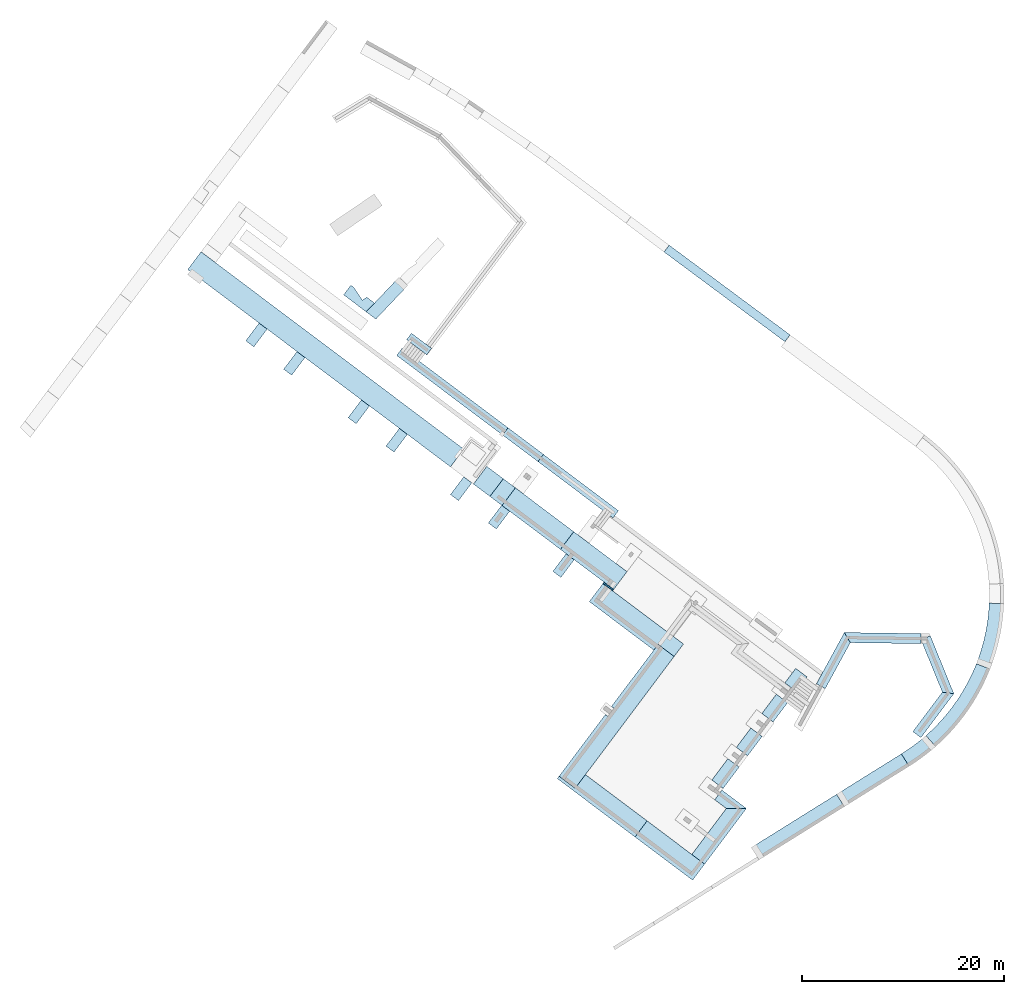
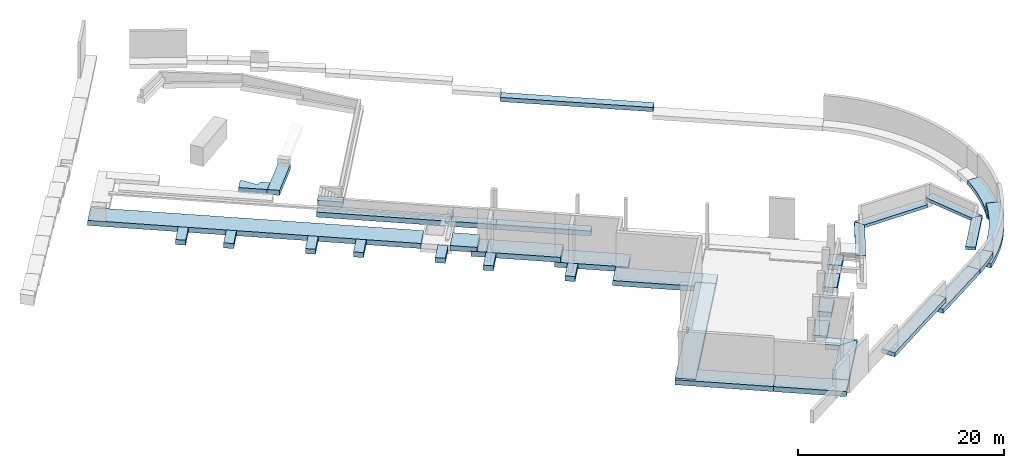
# One storey, part 1 of 9: 37 footings.
"""IFC2X3 building model written with IfcOpenShell, lengths in metres."""

import ifcopenshell
import ifcopenshell.guid

model = None  # the IFC model being written
_history = None  # IfcOwnerHistory: only IFC2X3 demands one
_inside = {}  # id of a spatial element -> (the spatial element, [elements in it])
_under = {}  # id of a project, library or spatial element -> (it, [spatial elements below it])
_declared = {}  # id of a project -> (the project, [libraries it declares])
_typed = {}  # id of a type object -> (the type object, [elements of that type])
_made_of = {}  # id of a material, layer set ... -> (it, [elements and type objects made of it])


def new_model(schema):
    """Start an empty IFC model of exactly this schema.

    Asked for "IFC4X3", IfcOpenShell would pick the latest addendum, in which some entities
    have other attributes; the version numbers below select the first issue.
    IFC2X3 requires an IfcOwnerHistory on every rooted entity: one is made here for all.
    """
    global model, _history
    if schema == "IFC4X3":
        model = ifcopenshell.file(schema_version=(4, 3, 0, 0))
    else:
        model = ifcopenshell.file(schema=schema)
    _inside.clear()
    _under.clear()
    _declared.clear()
    _typed.clear()
    _made_of.clear()
    _history = None
    if model.schema == "IFC2X3":
        org = make("IfcOrganization", Name="unknown")
        user = make(
            "IfcPersonAndOrganization",
            ThePerson=make("IfcPerson", FamilyName="unknown"),
            TheOrganization=org,
        )
        app = make(
            "IfcApplication",
            ApplicationDeveloper=org,
            Version="unknown",
            ApplicationFullName="unknown",
            ApplicationIdentifier="unknown",
        )
        _history = make(
            "IfcOwnerHistory",
            OwningUser=user,
            OwningApplication=app,
            ChangeAction="ADDED",
            CreationDate=0,
        )
    return model


def make(cls, **values):
    """One entity of the class cls with the attributes given. An attribute that is None is left unset."""
    return model.create_entity(
        cls, **{name: value for name, value in values.items() if value is not None}
    )


def entity(cls, *values):
    """Any entity or typed value of the class cls, its attributes in the order of the schema. None: left unset."""
    e = model.create_entity(cls)
    for i, value in enumerate(values):
        if value is not None:
            e[i] = value
    return e


def rooted(cls, **values):
    """An entity with a GlobalId (a new one), such as an element, a storey or a relation."""
    return make(cls, GlobalId=ifcopenshell.guid.new(), OwnerHistory=_history, **values)


def si_unit(unit_type, name, prefix=None):
    """IfcSIUnit, for example si_unit("LENGTHUNIT", "METRE", prefix="MILLI")."""
    return make("IfcSIUnit", UnitType=unit_type, Prefix=prefix, Name=name)


def converted_unit(unit_type, name, factor, base, dimensions=None, offset=None):
    """IfcConversionBasedUnit, such as the inch: factor (a typed value) times the base unit."""
    return make(
        "IfcConversionBasedUnit"
        if offset is None
        else "IfcConversionBasedUnitWithOffset",
        ConversionOffset=offset,
        Dimensions=None
        if dimensions is None
        else entity("IfcDimensionalExponents", *dimensions),
        UnitType=unit_type,
        Name=name,
        ConversionFactor=make(
            "IfcMeasureWithUnit", ValueComponent=factor, UnitComponent=base
        ),
    )


def derived_unit(unit_type, elements):
    """IfcDerivedUnit: a product of units, each with its exponent."""
    return make(
        "IfcDerivedUnit",
        Elements=[
            make("IfcDerivedUnitElement", Unit=unit, Exponent=power)
            for unit, power in elements
        ],
        UnitType=unit_type,
    )


def assignment(units):
    """IfcUnitAssignment: the units of a project."""
    return None if units is None else make("IfcUnitAssignment", Units=units)


def point(xyz):
    """IfcCartesianPoint."""
    return None if xyz is None else make("IfcCartesianPoint", Coordinates=xyz)


def direction(xyz):
    """IfcDirection."""
    return None if xyz is None else make("IfcDirection", DirectionRatios=xyz)


def frame(location, z_axis=None, x_axis=None):
    """IfcAxis2Placement3D, a coordinate frame: its origin and axes. An axis left out is left unset."""
    return make(
        "IfcAxis2Placement3D",
        Location=point(location),
        Axis=direction(z_axis),
        RefDirection=direction(x_axis),
    )


def frame_2d(location, x_axis=None):
    """IfcAxis2Placement2D, a coordinate frame in the plane: its origin and x axis."""
    return make(
        "IfcAxis2Placement2D", Location=point(location), RefDirection=direction(x_axis)
    )


def origin():
    """The frame at (0, 0, 0) with its axes left unset."""
    return frame((0.0, 0.0, 0.0))


def origin_2d_with_axis():
    """The frame at (0, 0) in the plane with the x axis (1, 0) written out."""
    return frame_2d((0.0, 0.0), x_axis=(1.0, 0.0))


def place(relative_to, where):
    """IfcLocalPlacement: puts the frame where relative to a parent placement (None: the world)."""
    return make(
        "IfcLocalPlacement", PlacementRelTo=relative_to, RelativePlacement=where
    )


def context(
    kind, dimensions, precision=None, world=None, true_north=None, identifier=None
):
    """IfcGeometricRepresentationContext, for example the 3D "Model" context."""
    return make(
        "IfcGeometricRepresentationContext",
        ContextIdentifier=identifier,
        ContextType=kind,
        CoordinateSpaceDimension=dimensions,
        Precision=precision,
        WorldCoordinateSystem=world,
        TrueNorth=true_north,
    )


def subcontext(parent, identifier, kind, view, scale=None):
    """IfcGeometricRepresentationSubContext, for example "Body" below "Model"."""
    return make(
        "IfcGeometricRepresentationSubContext",
        ContextIdentifier=identifier,
        ContextType=kind,
        ParentContext=parent,
        TargetScale=scale,
        TargetView=view,
    )


def project(units=None, contexts=None):
    """IfcProject with its units and contexts."""
    return rooted(
        "IfcProject",
        Name="project",
        RepresentationContexts=contexts,
        UnitsInContext=assignment(units),
    )


def spatial(cls, under=None, at=None, **own):
    """A site, building, storey or space (cls), placed at a placement, below another one or the project."""
    s = rooted(cls, ObjectPlacement=at, **own)
    if under is not None:
        _under.setdefault(under.id(), (under, []))[1].append(s)
    return s


def polyline(points):
    """IfcPolyline through the points."""
    return make("IfcPolyline", Points=[point(p) for p in points])


def circle_curve(where, radius):
    """IfcCircle in the frame where."""
    return make("IfcCircle", Position=where, Radius=radius)


def parameter(value):
    """IfcParameterValue: where a trimmed curve begins or ends, as a parameter of its basis curve."""
    return model.create_entity("IfcParameterValue", value)


def trimmed(basis, trim1, trim2, sense, master):
    """IfcTrimmedCurve: the piece of a basis curve between two trims."""
    return make(
        "IfcTrimmedCurve",
        BasisCurve=basis,
        Trim1=trim1,
        Trim2=trim2,
        SenseAgreement=sense,
        MasterRepresentation=master,
    )


def segment(curve, same_sense, transition):
    """IfcCompositeCurveSegment."""
    return make(
        "IfcCompositeCurveSegment",
        Transition=transition,
        SameSense=same_sense,
        ParentCurve=curve,
    )


def composite_curve(segments, self_intersect=None):
    """IfcCompositeCurve: segments joined end to end."""
    return make("IfcCompositeCurve", Segments=segments, SelfIntersect=self_intersect)


def profile(cls, at=None, kind="AREA", **sizes):
    """A parametric profile (cls). Its sizes go by their IFC names, for example OverallWidth=200.0."""
    return make(cls, ProfileType=kind, Position=at, **sizes)


def rectangle(**sizes):
    """IfcRectangleProfileDef."""
    return profile("IfcRectangleProfileDef", **sizes)


def outline(outer, holes=None, kind="AREA"):
    """IfcArbitraryClosedProfileDef: a profile drawn as a closed curve; with holes, ...WithVoids."""
    if holes is None:
        return make("IfcArbitraryClosedProfileDef", ProfileType=kind, OuterCurve=outer)
    return make(
        "IfcArbitraryProfileDefWithVoids",
        ProfileType=kind,
        OuterCurve=outer,
        InnerCurves=holes,
    )


def extrude(swept, where, along, depth):
    """IfcExtrudedAreaSolid: the profile swept, set in the frame where, extruded along a direction by depth."""
    return make(
        "IfcExtrudedAreaSolid",
        SweptArea=swept,
        Position=where,
        ExtrudedDirection=direction(along),
        Depth=depth,
    )


def shape(context_of_items, identifier, shape_type, items):
    """IfcShapeRepresentation: the items that make up one representation, for example the "Body"."""
    return make(
        "IfcShapeRepresentation",
        ContextOfItems=context_of_items,
        RepresentationIdentifier=identifier,
        RepresentationType=shape_type,
        Items=items,
    )


def material(Name=None, Category=None):
    """IfcMaterial."""
    return make("IfcMaterial", Name=Name, Category=Category)


def made_of(thing, what):
    """Note that an element or type object is made of a material, layer set ...; save() writes the relation."""
    if what is not None:
        _made_of.setdefault(what.id(), (what, []))[1].append(thing)
    return thing


def element(
    cls,
    number,
    at=None,
    inside=None,
    cuts=None,
    type_object=None,
    material=None,
    context=None,
    identifier="Body",
    shape_type=None,
    held_by="IfcProductDefinitionShape",
    body=None,
    shapes=None,
    **own,
):
    """One element of the class cls, such as IfcWall. Its Tag is "e" and its number.

    at: its placement. inside: the storey or other place that contains it. cuts: it is an
    opening in that element (IfcRelVoidsElement). A single representation is given by context,
    identifier, shape_type and body (its items); several are given by shapes. held_by: the class
    of the entity that holds the representations. save() writes the other relations.
    """
    e = rooted(cls, Tag="e%d" % number, ObjectPlacement=at, **own)
    if body is not None:
        shapes = [shape(context, identifier, shape_type, body)]
    if shapes is not None:
        e.Representation = make(held_by, Representations=shapes)
    if inside is not None:
        _inside.setdefault(inside.id(), (inside, []))[1].append(e)
    if cuts is not None:
        rooted(
            "IfcRelVoidsElement", RelatingBuildingElement=cuts, RelatedOpeningElement=e
        )
    if type_object is not None:
        _typed.setdefault(type_object.id(), (type_object, []))[1].append(e)
    return made_of(e, material)


def aggregate(whole, parts):
    """IfcRelAggregates: a whole, such as a stair, and the parts it consists of."""
    return rooted("IfcRelAggregates", RelatingObject=whole, RelatedObjects=parts)


def save(model, path):
    """Write the relations noted so far, then the file.

    IfcRelAggregates (storeys below a building ...), IfcRelContainedInSpatialStructure (elements
    in a storey), IfcRelDefinesByType, IfcRelAssociatesMaterial and IfcRelDeclares: one each for
    every whole, place, type object, material and project.
    """
    for whole, parts in _under.values():
        aggregate(whole, parts)
    for where, things in _inside.values():
        rooted(
            "IfcRelContainedInSpatialStructure",
            RelatedElements=things,
            RelatingStructure=where,
        )
    for kind, things in _typed.values():
        rooted("IfcRelDefinesByType", RelatedObjects=things, RelatingType=kind)
    for what, things in _made_of.values():
        rooted("IfcRelAssociatesMaterial", RelatedObjects=things, RelatingMaterial=what)
    for by, libraries in _declared.values():
        rooted("IfcRelDeclares", RelatingContext=by, RelatedDefinitions=libraries)
    model.write(path)


model = new_model("IFC2X3")

# Units and contexts
model_context = context("Model", 3, precision=1e-05, world=origin(), true_north=direction((6.123031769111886e-17, 1.0)))
body_context = subcontext(model_context, "Body", "Model", "MODEL_VIEW")
ifc_project = project(units=[si_unit("LENGTHUNIT", "METRE"), si_unit("AREAUNIT", "SQUARE_METRE"), si_unit("VOLUMEUNIT", "CUBIC_METRE"), converted_unit("PLANEANGLEUNIT", "DEGREE", entity("IfcRatioMeasure", 0.017453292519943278), si_unit("PLANEANGLEUNIT", "RADIAN"), dimensions=[0, 0, 0, 0, 0, 0, 0]), si_unit("MASSUNIT", "GRAM", prefix="KILO"), derived_unit("MASSDENSITYUNIT", [(si_unit("MASSUNIT", "GRAM", prefix="KILO"), 1), (si_unit("LENGTHUNIT", "METRE"), -3)]), derived_unit("IONCONCENTRATIONUNIT", [(si_unit("MASSUNIT", "GRAM", prefix="KILO"), 1), (si_unit("LENGTHUNIT", "METRE"), -3)]), derived_unit("MOMENTOFINERTIAUNIT", [(si_unit("LENGTHUNIT", "METRE"), 4)]), si_unit("TIMEUNIT", "SECOND"), si_unit("FREQUENCYUNIT", "HERTZ"), si_unit("THERMODYNAMICTEMPERATUREUNIT", "DEGREE_CELSIUS"), derived_unit("THERMALTRANSMITTANCEUNIT", [(si_unit("MASSUNIT", "GRAM", prefix="KILO"), 1), (si_unit("THERMODYNAMICTEMPERATUREUNIT", "KELVIN"), -1), (si_unit("TIMEUNIT", "SECOND"), -3)]), derived_unit("THERMALCONDUCTANCEUNIT", [(si_unit("MASSUNIT", "GRAM", prefix="KILO"), 1), (si_unit("THERMODYNAMICTEMPERATUREUNIT", "KELVIN"), -1), (si_unit("TIMEUNIT", "SECOND"), -3), (si_unit("LENGTHUNIT", "METRE"), 1)]), derived_unit("VOLUMETRICFLOWRATEUNIT", [(si_unit("LENGTHUNIT", "METRE"), 3), (si_unit("TIMEUNIT", "SECOND"), -1)]), derived_unit("MASSFLOWRATEUNIT", [(si_unit("MASSUNIT", "GRAM", prefix="KILO"), 1), (si_unit("TIMEUNIT", "SECOND"), -1)]), derived_unit("ROTATIONALFREQUENCYUNIT", [(si_unit("TIMEUNIT", "SECOND"), -1)]), si_unit("ELECTRICCURRENTUNIT", "AMPERE"), si_unit("ELECTRICVOLTAGEUNIT", "VOLT"), si_unit("POWERUNIT", "WATT"), si_unit("FORCEUNIT", "NEWTON", prefix="KILO"), si_unit("ILLUMINANCEUNIT", "LUX"), si_unit("LUMINOUSFLUXUNIT", "LUMEN"), si_unit("LUMINOUSINTENSITYUNIT", "CANDELA"), derived_unit("USERDEFINED", [(si_unit("MASSUNIT", "GRAM", prefix="KILO"), -1), (si_unit("LENGTHUNIT", "METRE"), -2), (si_unit("TIMEUNIT", "SECOND"), 3), (si_unit("LUMINOUSFLUXUNIT", "LUMEN"), 1)]), derived_unit("USERDEFINED", [(si_unit("MASSUNIT", "GRAM", prefix="KILO"), 1), (si_unit("TIMEUNIT", "SECOND"), -3), (si_unit("LENGTHUNIT", "METRE"), 3), (si_unit("ELECTRICCURRENTUNIT", "AMPERE"), -2)]), derived_unit("SOUNDPOWERUNIT", [(si_unit("MASSUNIT", "GRAM", prefix="KILO"), 1), (si_unit("TIMEUNIT", "SECOND"), -3), (si_unit("LENGTHUNIT", "METRE"), 2)]), derived_unit("SOUNDPRESSUREUNIT", [(si_unit("MASSUNIT", "GRAM", prefix="KILO"), 1), (si_unit("LENGTHUNIT", "METRE"), -1), (si_unit("TIMEUNIT", "SECOND"), -2)]), derived_unit("LINEARVELOCITYUNIT", [(si_unit("LENGTHUNIT", "METRE"), 1), (si_unit("TIMEUNIT", "SECOND"), -1)]), si_unit("PRESSUREUNIT", "PASCAL"), derived_unit("USERDEFINED", [(si_unit("MASSUNIT", "GRAM", prefix="KILO"), 1), (si_unit("LENGTHUNIT", "METRE"), -2), (si_unit("TIMEUNIT", "SECOND"), -2)]), derived_unit("LINEARFORCEUNIT", [(si_unit("MASSUNIT", "GRAM", prefix="KILO"), 1), (si_unit("TIMEUNIT", "SECOND"), -2)]), derived_unit("PLANARFORCEUNIT", [(si_unit("MASSUNIT", "GRAM", prefix="KILO"), 1), (si_unit("LENGTHUNIT", "METRE"), -1), (si_unit("TIMEUNIT", "SECOND"), -2)]), derived_unit("SPECIFICHEATCAPACITYUNIT", [(si_unit("THERMODYNAMICTEMPERATUREUNIT", "KELVIN"), -1), (si_unit("LENGTHUNIT", "METRE"), 2), (si_unit("TIMEUNIT", "SECOND"), -2)]), derived_unit("HEATINGVALUEUNIT", [(si_unit("LENGTHUNIT", "METRE"), 2), (si_unit("TIMEUNIT", "SECOND"), -2)]), derived_unit("VAPORPERMEABILITYUNIT", [(si_unit("LENGTHUNIT", "METRE"), -1), (si_unit("TIMEUNIT", "SECOND"), 1)]), derived_unit("DYNAMICVISCOSITYUNIT", [(si_unit("MASSUNIT", "GRAM", prefix="KILO"), 1), (si_unit("TIMEUNIT", "SECOND"), -1), (si_unit("LENGTHUNIT", "METRE"), -1)]), derived_unit("THERMALEXPANSIONCOEFFICIENTUNIT", [(si_unit("THERMODYNAMICTEMPERATUREUNIT", "KELVIN"), -1)]), derived_unit("MODULUSOFELASTICITYUNIT", [(si_unit("MASSUNIT", "GRAM", prefix="KILO"), 1), (si_unit("LENGTHUNIT", "METRE"), -1), (si_unit("TIMEUNIT", "SECOND"), -2)]), derived_unit("ISOTHERMALMOISTURECAPACITYUNIT", [(si_unit("LENGTHUNIT", "METRE"), 3), (si_unit("MASSUNIT", "GRAM", prefix="KILO"), -1)]), derived_unit("MOISTUREDIFFUSIVITYUNIT", [(si_unit("TIMEUNIT", "SECOND"), -1), (si_unit("LENGTHUNIT", "METRE"), 2)])], contexts=[model_context])

# Site, building, storey
site_placement = place(None, origin())
site = spatial("IfcSite", under=ifc_project, at=site_placement, Name="Default", CompositionType="ELEMENT")
building_placement = place(site_placement, frame((0.0, 0.0, 235.0), z_axis=(0.0, 0.0, 1.0), x_axis=(-0.7996477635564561, 0.6004693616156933, 0.0)))
building = spatial("IfcBuilding", under=site, at=building_placement, CompositionType="ELEMENT")
storey_placement = place(building_placement, frame((0.0, 0.0, -5.4499999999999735)))
storey = spatial("IfcBuildingStorey", under=building, at=storey_placement, Name="PS1- Gimnàs", CompositionType="ELEMENT", Elevation=-5.4499999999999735)

# Footings
ifc_material = material(Name="_Formigó- T1- STR")
footing_1_placement = place(storey_placement, frame((66.09514768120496, -36.11519175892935, -0.050000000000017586)))
element("IfcFooting", 1, at=footing_1_placement, inside=storey, material=ifc_material, Name="Cimentación de muro:STR- S- Formigó- Sabata mur 100 T-54", ObjectType="Cimentación de muro:STR- S- Formigó- Sabata mur 100 T-54", PredefinedType="STRIP_FOOTING", context=body_context, shape_type="SweptSolid", body=[
    extrude(rectangle(XDim=2.1999999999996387, YDim=0.999999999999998, at=frame_2d((-2.220446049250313e-15, 4.3576253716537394e-15), x_axis=(1.0, 0.0))), frame((0.5000000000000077, 1.0999999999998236, 0.0), z_axis=(0.0, 0.0, 1.0), x_axis=(0.0, 1.0, 0.0)), (0.0, 0.0, 1.0), 0.6000000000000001),
])
footing_2_placement = place(storey_placement, frame((61.39514768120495, -36.115191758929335, -0.050000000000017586)))
element("IfcFooting", 2, at=footing_2_placement, inside=storey, material=ifc_material, Name="Cimentación de muro:STR- S- Formigó- Sabata mur 100 T-54", ObjectType="Cimentación de muro:STR- S- Formigó- Sabata mur 100 T-54", PredefinedType="STRIP_FOOTING", context=body_context, shape_type="SweptSolid", body=[
    extrude(rectangle(XDim=2.1999999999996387, YDim=0.999999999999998, at=frame_2d((-2.220446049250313e-15, 4.3576253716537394e-15), x_axis=(1.0, 0.0))), frame((0.5000000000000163, 1.0999999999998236, 0.0), z_axis=(0.0, 0.0, 1.0), x_axis=(0.0, 1.0, 0.0)), (0.0, 0.0, 1.0), 0.6000000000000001),
])
footing_3_placement = place(storey_placement, frame((53.39514768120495, -36.115191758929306, -0.050000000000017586)))
element("IfcFooting", 3, at=footing_3_placement, inside=storey, material=ifc_material, Name="Cimentación de muro:STR- S- Formigó- Sabata mur 100 T-54", ObjectType="Cimentación de muro:STR- S- Formigó- Sabata mur 100 T-54", PredefinedType="STRIP_FOOTING", context=body_context, shape_type="SweptSolid", body=[
    extrude(rectangle(XDim=2.1999999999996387, YDim=0.999999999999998, at=frame_2d((2.220446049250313e-15, 4.3576253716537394e-15), x_axis=(1.0, 0.0))), frame((0.5000000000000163, 1.0999999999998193, 0.0), z_axis=(0.0, 0.0, 1.0), x_axis=(0.0, 1.0, 0.0)), (0.0, 0.0, 1.0), 0.6000000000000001),
])
footing_4_placement = place(storey_placement, frame((48.695147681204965, -36.11519175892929, -0.050000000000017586)))
element("IfcFooting", 4, at=footing_4_placement, inside=storey, material=ifc_material, Name="Cimentación de muro:STR- S- Formigó- Sabata mur 100 T-54", ObjectType="Cimentación de muro:STR- S- Formigó- Sabata mur 100 T-54", PredefinedType="STRIP_FOOTING", context=body_context, shape_type="SweptSolid", body=[
    extrude(rectangle(XDim=2.1999999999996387, YDim=0.999999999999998, at=frame_2d((2.220446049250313e-15, 4.3576253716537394e-15), x_axis=(1.0, 0.0))), frame((0.5000000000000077, 1.0999999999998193, 0.0), z_axis=(0.0, 0.0, 1.0), x_axis=(0.0, 1.0, 0.0)), (0.0, 0.0, 1.0), 0.6000000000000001),
])
footing_5_placement = place(storey_placement, frame((40.695147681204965, -36.115191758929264, -0.050000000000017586)))
element("IfcFooting", 5, at=footing_5_placement, inside=storey, material=ifc_material, Name="Cimentación de muro:STR- S- Formigó- Sabata mur 100 T-54", ObjectType="Cimentación de muro:STR- S- Formigó- Sabata mur 100 T-54", PredefinedType="STRIP_FOOTING", context=body_context, shape_type="SweptSolid", body=[
    extrude(rectangle(XDim=2.1999999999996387, YDim=0.999999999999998, at=frame_2d((-2.220446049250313e-15, -4.3576253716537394e-15), x_axis=(1.0, 0.0))), frame((0.49999999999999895, 1.0999999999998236, 0.0), z_axis=(0.0, 0.0, 1.0), x_axis=(0.0, 1.0, 0.0)), (0.0, 0.0, 1.0), 0.6000000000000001),
])
footing_6_placement = place(storey_placement, frame((14.295147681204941, -34.38920390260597, -1.150000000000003)))
element("IfcFooting", 6, at=footing_6_placement, inside=storey, material=ifc_material, Name="Cimentación de muro:STR- S- Formigó- Sabata mur 200 T2", ObjectType="Cimentación de muro:STR- S- Formigó- Sabata mur 200 T2", PredefinedType="STRIP_FOOTING", context=body_context, shape_type="SweptSolid", body=[
    extrude(outline(polyline([(-8.264704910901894, -1.339999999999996), (-6.564704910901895, -1.339999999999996), (8.08430904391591, -1.3400000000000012), (8.08430904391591, 0.6599999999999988), (7.3843090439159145, 0.66), (0.38529690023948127, 0.6600000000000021), (0.3852969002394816, 0.35999999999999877), (-0.6147030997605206, 0.3599999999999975), (-0.614703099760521, 0.6600000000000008), (-8.264704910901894, 0.660000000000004), (-8.264704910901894, -1.339999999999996)])), frame((1.3400000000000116, 8.084309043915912, 0.0), z_axis=(0.0, 0.0, 1.0), x_axis=(0.0, -1.0, 0.0)), (0.0, 0.0, 1.0), 0.6000000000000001),
])
footing_7_placement = place(storey_placement, frame((6.645147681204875, -19.74018994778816, -1.150000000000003)))
element("IfcFooting", 7, at=footing_7_placement, inside=storey, material=ifc_material, Name="Cimentación de muro:STR- S- Formigó- Sabata mur 200 T2", ObjectType="Cimentación de muro:STR- S- Formigó- Sabata mur 200 T2", PredefinedType="STRIP_FOOTING", context=body_context, shape_type="SweptSolid", body=[
    extrude(outline(polyline([(-5.766666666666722, -1.2333333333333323), (1.8833333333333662, -1.2333333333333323), (1.8833333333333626, 0.4666666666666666), (3.883333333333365, 0.4666666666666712), (3.883333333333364, 0.7666666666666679), (-5.766666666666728, 0.7666666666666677), (-5.766666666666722, -1.2333333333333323)])), frame((5.766666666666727, 1.233333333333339, 0.0)), (0.0, 0.0, 1.0), 0.6000000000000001),
])
footing_8_placement = place(storey_placement, frame((-0.4941665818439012, -19.740189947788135, -1.150000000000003)))
element("IfcFooting", 8, at=footing_8_placement, inside=storey, material=ifc_material, Name="Cimentación de muro:STR- S- Formigó- Sabata mur 200", ObjectType="Cimentación de muro:STR- S- Formigó- Sabata mur 200", PredefinedType="STRIP_FOOTING", context=body_context, shape_type="SweptSolid", body=[
    extrude(rectangle(XDim=7.139314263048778, YDim=2.0, at=frame_2d((-0.39393142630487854, -0.20000000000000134), x_axis=(1.0, 0.0))), frame((3.17572570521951, 0.8000000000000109, 0.0), z_axis=(0.0, 0.0, 1.0), x_axis=(-1.0, 0.0, 0.0)), (0.0, 0.0, 1.0), 0.6000000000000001),
])
footing_9_placement = place(storey_placement, frame((-0.4941665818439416, -26.639989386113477, -1.150000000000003)))
element("IfcFooting", 9, at=footing_9_placement, inside=storey, material=ifc_material, Name="Cimentación de muro:STR- S- Formigó- Sabata mur 160", ObjectType="Cimentación de muro:STR- S- Formigó- Sabata mur 160", PredefinedType="STRIP_FOOTING", context=body_context, shape_type="SweptSolid", body=[
    extrude(outline(polyline([(-0.5333333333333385, -2.9166004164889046), (1.0666666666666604, -2.9166004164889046), (1.0666666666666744, 3.9831990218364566), (-0.5333333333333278, 2.783199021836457), (-0.533333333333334, -0.26659860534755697), (-0.5333333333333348, -0.6665986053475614), (-0.5333333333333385, -2.9166004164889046)])), frame((1.0666666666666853, 3.9831990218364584, 0.0), z_axis=(0.0, 0.0, 1.0), x_axis=(-1.0, 0.0, 0.0)), (0.0, 0.0, 1.0), 0.6000000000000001),
])
footing_10_placement = place(storey_placement, frame((-0.49416658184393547, -26.639989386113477, -1.150000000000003)))
element("IfcFooting", 10, at=footing_10_placement, inside=storey, material=ifc_material, Name="Cimentación de muro:STR- S- Formigó- Sabata mur 120 t2", ObjectType="Cimentación de muro:STR- S- Formigó- Sabata mur 120 t2", PredefinedType="STRIP_FOOTING", context=body_context, shape_type="SweptSolid", body=[
    extrude(outline(polyline([(-1.9196571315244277, -0.5999999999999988), (1.1196571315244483, -0.5999999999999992), (1.1196571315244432, 0.600000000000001), (-0.3196571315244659, 0.6000000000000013), (-1.9196571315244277, -0.5999999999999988)])), frame((1.9196571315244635, 0.6000000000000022, 0.0)), (0.0, 0.0, 1.0), 0.6000000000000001),
])
footing_11_placement = place(storey_placement, frame((2.5451476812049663, -33.290191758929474, -1.150000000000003)))
element("IfcFooting", 11, at=footing_11_placement, inside=storey, material=ifc_material, Name="Cimentación de muro:STR- S- Formigó- Sabata mur 140- t30", ObjectType="Cimentación de muro:STR- S- Formigó- Sabata mur 140- t30", PredefinedType="STRIP_FOOTING", context=body_context, shape_type="SweptSolid", body=[
    extrude(rectangle(XDim=2.65020237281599, YDim=1.4, at=origin_2d_with_axis()), frame((0.700000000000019, 5.125101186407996, 0.0), z_axis=(0.0, 0.0, 1.0), x_axis=(0.0, -1.0, 0.0)), (0.0, 0.0, 1.0), 0.6000000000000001),
    extrude(rectangle(XDim=2.4000000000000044, YDim=1.4, at=frame_2d((0.0, -2.7755575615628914e-16), x_axis=(1.0, 0.0))), frame((0.7000000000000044, 1.2000000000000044, 0.0), z_axis=(0.0, 0.0, 1.0), x_axis=(0.0, -1.0, 0.0)), (0.0, 0.0, 1.0), 0.6000000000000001),
])
footing_12_placement = place(storey_placement, frame((14.295147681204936, -35.939203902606, -1.150000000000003)))
element("IfcFooting", 12, at=footing_12_placement, inside=storey, material=ifc_material, Name="Cimentación de muro:STR- S- Formigó- Sabata mur 220", ObjectType="Cimentación de muro:STR- S- Formigó- Sabata mur 220", PredefinedType="STRIP_FOOTING", context=body_context, shape_type="SweptSolid", body=[
    extrude(outline(polyline([(-1.0857142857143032, -5.314285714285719), (1.1642857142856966, -5.314285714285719), (1.1642857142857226, 2.6857142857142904), (0.46428571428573, 2.6857142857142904), (0.46428571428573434, 4.685714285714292), (-1.0857142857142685, 4.685714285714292), (-1.0857142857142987, -4.114285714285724), (-1.0857142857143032, -5.314285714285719)])), frame((4.685714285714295, 1.0857142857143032, 0.0), z_axis=(0.0, 0.0, 1.0), x_axis=(0.0, 1.0, 0.0)), (0.0, 0.0, 1.0), 0.6000000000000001),
])
footing_13_placement = place(storey_placement, frame((29.695147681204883, -38.31519175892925, -0.5500000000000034)))
element("IfcFooting", 13, at=footing_13_placement, inside=storey, material=ifc_material, Name="Cimentación de muro:STR- S- Formigó- Sabata mur 220", ObjectType="Cimentación de muro:STR- S- Formigó- Sabata mur 220", PredefinedType="STRIP_FOOTING", context=body_context, shape_type="SweptSolid", body=[
    extrude(rectangle(XDim=7.250000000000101, YDim=2.199999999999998, at=frame_2d((-0.8000000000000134, 0.12499999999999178), x_axis=(1.0, 0.0))), frame((2.825000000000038, 1.2250000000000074, 0.0), z_axis=(0.0, 0.0, 1.0), x_axis=(-1.0, 0.0, 0.0)), (0.0, 0.0, 1.0), 0.6000000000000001),
])
footing_14_placement = place(storey_placement, frame((35.995147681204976, -36.11519175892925, -0.5500000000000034)))
element("IfcFooting", 14, at=footing_14_placement, inside=storey, material=ifc_material, Name="Cimentación de muro:STR- S- Formigó- Sabata mur 100 T-54", ObjectType="Cimentación de muro:STR- S- Formigó- Sabata mur 100 T-54", PredefinedType="STRIP_FOOTING", context=body_context, shape_type="SweptSolid", body=[
    extrude(rectangle(XDim=2.199999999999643, YDim=0.999999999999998, at=frame_2d((0.2199999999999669, 0.0900000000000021), x_axis=(1.0, 0.0))), frame((0.5900000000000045, 0.8799999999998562, 0.0), z_axis=(0.0, 0.0, 1.0), x_axis=(0.0, 1.0, 0.0)), (0.0, 0.0, 1.0), 0.6000000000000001),
])
footing_15_placement = place(storey_placement, frame((23.095147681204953, -38.315191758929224, -1.150000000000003)))
element("IfcFooting", 15, at=footing_15_placement, inside=storey, material=ifc_material, Name="Cimentación de muro:STR- S- Formigó- Sabata mur 220", ObjectType="Cimentación de muro:STR- S- Formigó- Sabata mur 220", PredefinedType="STRIP_FOOTING", context=body_context, shape_type="SweptSolid", body=[
    extrude(rectangle(XDim=7.1999999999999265, YDim=2.1999999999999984, at=frame_2d((0.26000000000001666, 2.9976021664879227e-15), x_axis=(1.0, 0.0))), frame((3.859999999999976, 1.1000000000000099, 0.0), z_axis=(0.0, 0.0, 1.0), x_axis=(-1.0, 0.0, 0.0)), (0.0, 0.0, 1.0), 0.6000000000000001),
])
footing_16_placement = place(storey_placement, frame((27.402044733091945, -42.64018994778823, -1.1500000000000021)))
element("IfcFooting", 16, at=footing_16_placement, inside=storey, material=ifc_material, Name="Cimentación de muro:STR- S- Formigó- Sabata mur 90", ObjectType="Cimentación de muro:STR- S- Formigó- Sabata mur 90", PredefinedType="STRIP_FOOTING", context=body_context, shape_type="SweptSolid", body=[
    extrude(rectangle(XDim=9.299999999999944, YDim=0.9000000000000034, at=frame_2d((2.220446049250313e-15, 4.3298697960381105e-15), x_axis=(1.0, 0.0))), frame((4.649999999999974, 0.450000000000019, 0.0)), (0.0, 0.0, 1.0), 0.6000000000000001),
])
footing_17_placement = place(storey_placement, frame((0.39290387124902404, -46.4350167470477, -0.9000000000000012)))
element("IfcFooting", 17, at=footing_17_placement, inside=storey, material=ifc_material, Name="Cimentación de muro:STR- S- Formigó- Sabata mur 100- M30- H45", ObjectType="Cimentación de muro:STR- S- Formigó- Sabata mur 100- M30- H45", PredefinedType="STRIP_FOOTING", context=body_context, shape_type="SweptSolid", body=[
    extrude(outline(polyline([(-2.745006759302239, -0.5000000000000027), (2.4434294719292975, -0.4999999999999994), (3.0465840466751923, 0.5000000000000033), (-2.745006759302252, 0.4999999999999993), (-2.745006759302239, -0.5000000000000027)])), frame((0.8917224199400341, 2.9422475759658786, 0.0), z_axis=(0.0, 0.0, 1.0), x_axis=(0.14461846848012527, -0.9894874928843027, 0.0)), (0.0, 0.0, 1.0), 0.34999999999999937),
])
footing_18_placement = place(storey_placement, frame((-4.516620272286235, -50.92119562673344, -0.9000000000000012)))
element("IfcFooting", 18, at=footing_18_placement, inside=storey, material=ifc_material, Name="Cimentación de muro:STR- S- Formigó- Sabata mur 100- M30- H45", ObjectType="Cimentación de muro:STR- S- Formigó- Sabata mur 100- M30- H45", PredefinedType="STRIP_FOOTING", context=body_context, shape_type="SweptSolid", body=[
    extrude(outline(polyline([(-3.6542180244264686, -0.5000000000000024), (3.955795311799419, -0.5000000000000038), (3.352640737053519, 0.5000000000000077), (-3.654218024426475, 0.5000000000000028), (-3.6542180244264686, -0.5000000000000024)])), frame((3.246490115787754, 2.558078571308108, 0.0), z_axis=(0.0, 0.0, 1.0), x_axis=(0.8077610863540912, 0.5895099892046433, 0.0)), (0.0, 0.0, 1.0), 0.3499999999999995),
])
footing_19_placement = place(storey_placement, frame((-10.114607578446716, -51.29237310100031, -0.3000000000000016)))
element("IfcFooting", 19, at=footing_19_placement, inside=storey, material=ifc_material, Name="Cimentación de muro:STR- S- Formigó- Sabata mur 100- M30- H45", ObjectType="Cimentación de muro:STR- S- Formigó- Sabata mur 100- M30- H45", PredefinedType="STRIP_FOOTING", context=body_context, shape_type="SweptSolid", body=[
    extrude(outline(polyline([(-2.0436403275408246, -0.44166666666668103), (-1.6128826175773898, -0.44166666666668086), (3.588686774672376, -0.44166666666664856), (4.155116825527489, 0.5583333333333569), (-2.0436403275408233, 0.558333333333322), (-2.043640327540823, 0.20833333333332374), (-2.0436403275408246, -0.44166666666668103)])), frame((3.850845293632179, 1.5296792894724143, 0.0), z_axis=(0.0, 0.0, 1.0), x_axis=(-0.8576796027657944, 0.5141844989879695, 0.0)), (0.0, 0.0, 1.0), 0.3499999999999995),
])
footing_20_placement = place(storey_placement, frame((-10.114607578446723, -48.10506825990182, -0.3000000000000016)))
element("IfcFooting", 20, at=footing_20_placement, inside=storey, material=ifc_material, Name="Cimentación de muro:STR- S- Formigó- Sabata mur 100- M30- H45", ObjectType="Cimentación de muro:STR- S- Formigó- Sabata mur 100- M30- H45", PredefinedType="STRIP_FOOTING", context=body_context, shape_type="SweptSolid", body=[
    extrude(outline(polyline([(-2.5825189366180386, -0.5000000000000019), (2.8657339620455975, -0.5000000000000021), (2.299303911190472, 0.4999999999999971), (-2.58251893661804, 0.4999999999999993), (-2.5825189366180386, -0.5000000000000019)])), frame((0.5000000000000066, 2.8657339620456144, 0.0), z_axis=(0.0, 0.0, 1.0), x_axis=(0.0, -1.0, 0.0)), (0.0, 0.0, 1.0), 0.3499999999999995),
])
footing_21_placement = place(storey_placement, frame((27.995147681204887, -36.11519175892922, -1.150000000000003)))
element("IfcFooting", 21, at=footing_21_placement, inside=storey, material=ifc_material, Name="Cimentación de muro:STR- S- Formigó- Sabata mur 100 T-54", ObjectType="Cimentación de muro:STR- S- Formigó- Sabata mur 100 T-54", PredefinedType="STRIP_FOOTING", context=body_context, shape_type="SweptSolid", body=[
    extrude(rectangle(XDim=2.1999999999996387, YDim=0.9999999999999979, at=frame_2d((2.220446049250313e-15, 0.0), x_axis=(1.0, 0.0))), frame((0.5000000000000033, 1.0999999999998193, 0.0), z_axis=(0.0, 0.0, 1.0), x_axis=(0.0, 1.0, 0.0)), (0.0, 0.0, 1.0), 0.6000000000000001),
])
footing_22_placement = place(storey_placement, frame((36.70204473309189, -42.64018994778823, -1.150000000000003)))
element("IfcFooting", 22, at=footing_22_placement, inside=storey, material=ifc_material, Name="Cimentación de muro:STR- S- Formigó- Sabata mur 90", ObjectType="Cimentación de muro:STR- S- Formigó- Sabata mur 90", PredefinedType="STRIP_FOOTING", context=body_context, shape_type="SweptSolid", body=[
    extrude(rectangle(XDim=4.400000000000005, YDim=0.9000000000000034, at=frame_2d((0.0, 4.3298697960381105e-15), x_axis=(1.0, 0.0))), frame((2.2000000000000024, 0.4500000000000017, 0.0), z_axis=(0.0, 0.0, 1.0), x_axis=(-1.0, 0.0, 0.0)), (0.0, 0.0, 1.0), 0.6000000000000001),
])
footing_23_placement = place(storey_placement, frame((41.102044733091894, -42.640189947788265, -1.150000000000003)))
element("IfcFooting", 23, at=footing_23_placement, inside=storey, material=ifc_material, Name="Cimentación de muro:STR- S- Formigó- Sabata mur 90", ObjectType="Cimentación de muro:STR- S- Formigó- Sabata mur 90", PredefinedType="STRIP_FOOTING", context=body_context, shape_type="SweptSolid", body=[
    extrude(rectangle(XDim=13.15000000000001, YDim=0.9000000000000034, at=frame_2d((0.0, 4.3298697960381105e-15), x_axis=(1.0, 0.0))), frame((6.575000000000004, 0.450000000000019, 0.0), z_axis=(0.0, 0.0, 1.0), x_axis=(-1.0, 0.0, 0.0)), (0.0, 0.0, 1.0), 0.6000000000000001),
])
footing_24_placement = place(storey_placement, frame((51.895147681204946, -44.390191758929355, -1.0499999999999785)))
element("IfcFooting", 24, at=footing_24_placement, inside=storey, material=ifc_material, Name="Cimentación de muro:STR- S- Formigó- Sabata mur 80", ObjectType="Cimentación de muro:STR- S- Formigó- Sabata mur 80", PredefinedType="STRIP_FOOTING", context=body_context, shape_type="SweptSolid", body=[
    extrude(rectangle(XDim=2.5000000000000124, YDim=0.8, at=frame_2d((0.09999999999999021, 0.08000000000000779), x_axis=(1.0, 0.0))), frame((1.150000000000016, 0.31999999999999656, 0.0)), (0.0, 0.0, 1.0), 0.6000000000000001),
])
footing_25_placement = place(storey_placement, frame((57.53470449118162, -48.099120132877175, -0.050000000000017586)))
element("IfcFooting", 25, at=footing_25_placement, inside=storey, material=ifc_material, Name="Cimentación de muro:STR- S- Formigó- Sabata mur 120", ObjectType="Cimentación de muro:STR- S- Formigó- Sabata mur 120", PredefinedType="STRIP_FOOTING", context=body_context, shape_type="SweptSolid", body=[
    extrude(outline(polyline([(-2.574795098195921, -0.47999999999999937), (0.9572493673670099, -0.47999999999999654), (2.165154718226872, -0.47999999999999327), (2.0271861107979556, 0.7200000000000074), (-2.5747950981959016, 0.720000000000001), (-2.574795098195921, -0.47999999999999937)])), frame((1.009384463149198, 2.6127701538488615, 0.0), z_axis=(0.0, 0.0, 1.0), x_axis=(0.11422137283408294, 0.9934553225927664, 0.0)), (0.0, 0.0, 1.0), 0.6000000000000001),
])
footing_26_placement = place(storey_placement, frame((36.945147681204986, -38.31519175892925, -0.5500000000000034)))
element("IfcFooting", 26, at=footing_26_placement, inside=storey, material=ifc_material, Name="Cimentación de muro:STR- S- Formigó- Sabata mur 220", ObjectType="Cimentación de muro:STR- S- Formigó- Sabata mur 220", PredefinedType="STRIP_FOOTING", context=body_context, shape_type="SweptSolid", body=[
    extrude(rectangle(XDim=1.4999999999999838, YDim=2.199999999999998, at=frame_2d((-0.17500000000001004, 2.220446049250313e-15), x_axis=(1.0, 0.0))), frame((0.5749999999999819, 1.1000000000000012, 0.0), z_axis=(0.0, 0.0, 1.0), x_axis=(-1.0, 0.0, 0.0)), (0.0, 0.0, 1.0), 0.6000000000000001),
])
footing_27_placement = place(storey_placement, frame((37.84514768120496, -38.31519175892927, -0.050000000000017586)))
element("IfcFooting", 27, at=footing_27_placement, inside=storey, material=ifc_material, Name="Cimentación de muro:STR- S- Formigó- Sabata mur 220", ObjectType="Cimentación de muro:STR- S- Formigó- Sabata mur 220", PredefinedType="STRIP_FOOTING", context=body_context, shape_type="SweptSolid", body=[
    extrude(outline(polyline([(-1.5666666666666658, -0.23333333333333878), (0.4833333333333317, -0.23333333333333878), (0.4833333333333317, -0.13333333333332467), (1.083333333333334, -0.13333333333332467), (1.083333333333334, 0.36666666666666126), (-1.5666666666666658, 0.36666666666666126), (-1.5666666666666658, -0.23333333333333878)])), frame((1.0833333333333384, 0.0, 0.23333333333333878), z_axis=(0.0, 1.0, 0.0), x_axis=(-1.0, 0.0, 0.0)), (0.0, 0.0, 1.0), 2.2000000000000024),
])
footing_28_placement = place(storey_placement, frame((43.34514768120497, -38.315191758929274, -0.050000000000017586)))
element("IfcFooting", 28, at=footing_28_placement, inside=storey, material=ifc_material, Name="Cimentación de muro:STR- S- Formigó- Sabata mur 220", ObjectType="Cimentación de muro:STR- S- Formigó- Sabata mur 220", PredefinedType="STRIP_FOOTING", context=body_context, shape_type="SweptSolid", body=[
    extrude(rectangle(XDim=32.59999999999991, YDim=2.1999999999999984, at=frame_2d((0.6428571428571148, 0.052380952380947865), x_axis=(1.0, 0.0))), frame((15.657142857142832, 1.0476190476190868, 0.0)), (0.0, 0.0, 1.0), 0.6000000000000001),
])
footing_29_placement = place(storey_placement, frame((59.13028584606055, -44.59019175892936, -0.050000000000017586)))
element("IfcFooting", 29, at=footing_29_placement, inside=storey, material=ifc_material, Name="Cimentación de muro:STR- S- Formigó- Sabata mur 120", ObjectType="Cimentación de muro:STR- S- Formigó- Sabata mur 120", PredefinedType="STRIP_FOOTING", context=body_context, shape_type="SweptSolid", body=[
    extrude(outline(polyline([(-1.4100269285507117, -0.7859519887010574), (1.3938662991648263, -0.7859519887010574), (1.5318349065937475, 0.414048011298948), (0.5633986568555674, 0.41404801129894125), (0.39263991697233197, -0.08428806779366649), (-1.0616859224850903, 0.4140480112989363), (-1.410026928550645, 0.41404801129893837), (-1.4100269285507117, -0.7859519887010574)])), frame((1.5318349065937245, 0.41404801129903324, 0.0), z_axis=(0.0, 0.0, 1.0), x_axis=(-1.0, 0.0, 0.0)), (0.0, 0.0, 1.0), 0.6000000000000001),
])
footing_30_placement = place(storey_placement, frame((23.09514768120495, -36.1151917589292, -1.150000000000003)))
element("IfcFooting", 30, at=footing_30_placement, inside=storey, material=ifc_material, Name="Cimentación de muro:STR- S- Formigó- Sabata mur 120 t3", ObjectType="Cimentación de muro:STR- S- Formigó- Sabata mur 120 t3", PredefinedType="STRIP_FOOTING", context=body_context, shape_type="SweptSolid", body=[
    extrude(rectangle(XDim=0.1759878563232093, YDim=1.1999999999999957, at=frame_2d((2.1649348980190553e-15, 0.0), x_axis=(1.0, 0.0))), frame((0.6000000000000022, 0.08799392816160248, 0.0), z_axis=(0.0, 0.0, 1.0), x_axis=(0.0, -1.0, 0.0)), (0.0, 0.0, 1.0), 0.6000000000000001),
])
footing_31_placement = place(storey_placement, frame((24.25670219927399, -66.8154791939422, -2.975000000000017)))
element("IfcFooting", 31, at=footing_31_placement, inside=storey, material=ifc_material, Name="Cimentación de muro:STR- S- Formigó- Sabata MP -1 m", ObjectType="Cimentación de muro:STR- S- Formigó- Sabata MP -1 m", PredefinedType="STRIP_FOOTING", context=body_context, shape_type="SweptSolid", body=[
    extrude(rectangle(XDim=14.943324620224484, YDim=0.8499999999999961, at=frame_2d((-2.4905541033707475, -0.054166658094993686), x_axis=(1.0, 0.0))), frame((4.9836319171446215, 0.3978232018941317, 0.0), z_axis=(0.0, 0.0, 1.0), x_axis=(-0.9999853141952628, -0.005419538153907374, 0.0)), (0.0, 0.0, 1.0), 0.5),
])
footing_32_placement = place(storey_placement, frame((-11.514692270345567, -58.22126735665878, -2.9750000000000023)))
element("IfcFooting", 32, at=footing_32_placement, inside=storey, material=ifc_material, Name="Cimentación de muro:STR- S- Formigó- Sabata MP1 +2m", ObjectType="Cimentación de muro:STR- S- Formigó- Sabata MP1 +2m", PredefinedType="STRIP_FOOTING", context=body_context, shape_type="SweptSolid", body=[
    extrude(outline(composite_curve([segment(polyline([(-0.19578352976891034, -3.1496948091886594), (1.2542164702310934, -3.1496948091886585)]), True, "CONTINUOUS"), segment(trimmed(circle_curve(frame_2d((-18.745783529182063, -3.1496948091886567), x_axis=(1.0, 0.0)), 19.999999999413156), [parameter(0.0)], [parameter(19.075668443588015)], True, "PARAMETER"), True, "CONTINUOUS"), segment(polyline([(0.15597217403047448, 3.386636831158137), (-1.2144051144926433, 2.912752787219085)]), True, "CONTINUOUS"), segment(trimmed(circle_curve(frame_2d((-18.745783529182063, -3.1496948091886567), x_axis=(1.0, 0.0)), 18.549999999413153), [parameter(0.0)], [parameter(19.075668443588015)], True, "PARAMETER"), False, "CONTINUOUS")], self_intersect=False)), frame((2.048068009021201, 3.307815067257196, 0.0), z_axis=(0.0, 0.0, -1.0), x_axis=(-0.8241849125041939, -0.5663207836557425, 0.0)), (0.0, 0.0, -1.0), 0.49999999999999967),
])
footing_33_placement = place(storey_placement, frame((-8.37164384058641, -33.69811532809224, 0.024999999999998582)))
element("IfcFooting", 33, at=footing_33_placement, inside=storey, material=ifc_material, Name="Cimentación de muro:STR- S- Formigó- Sabata MP1 +2m", ObjectType="Cimentación de muro:STR- S- Formigó- Sabata MP1 +2m", PredefinedType="STRIP_FOOTING", context=body_context, shape_type="SweptSolid", body=[
    extrude(rectangle(XDim=10.574507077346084, YDim=1.4499999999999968, at=frame_2d((-1.057450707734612, 0.07499493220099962), x_axis=(1.0, 0.0))), frame((2.1317100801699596, 4.233666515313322, 0.0), z_axis=(0.0, 0.0, 1.0), x_axis=(-0.36064275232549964, -0.9327040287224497, 0.0)), (0.0, 0.0, 1.0), 0.5),
])
footing_34_placement = place(storey_placement, frame((-11.81559538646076, -43.11817126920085, -0.9750000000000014)))
element("IfcFooting", 34, at=footing_34_placement, inside=storey, material=ifc_material, Name="Cimentación de muro:STR- S- Formigó- Sabata MP1 +2m", ObjectType="Cimentación de muro:STR- S- Formigó- Sabata MP1 +2m", PredefinedType="STRIP_FOOTING", context=body_context, shape_type="SweptSolid", body=[
    extrude(outline(composite_curve([segment(polyline([(-0.7477756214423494, -1.0651292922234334), (-0.3977756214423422, -1.0651292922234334)]), True, "CONTINUOUS"), segment(polyline([(-0.3977756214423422, -1.0651292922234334), (0.7022243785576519, -1.0651292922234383)]), True, "CONTINUOUS"), segment(trimmed(circle_curve(frame_2d((19.252224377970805, -1.0651292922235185), x_axis=(-1.0, 0.0)), 18.54999999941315), [parameter(358.2688625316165)], [parameter(0.0)], True, "PARAMETER"), False, "CONTINUOUS"), segment(trimmed(circle_curve(frame_2d((19.252224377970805, -1.0651292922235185), x_axis=(-1.0, 0.0)), 18.54999999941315), [parameter(350.6073594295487)], [parameter(358.2688625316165)], True, "PARAMETER"), False, "CONTINUOUS"), segment(polyline([(0.9509217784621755, 1.9622165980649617), (-0.47963826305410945, 2.1988554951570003)]), True, "CONTINUOUS"), segment(trimmed(circle_curve(frame_2d((19.252224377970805, -1.0651292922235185), x_axis=(-1.0, 0.0)), 19.99999999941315), [parameter(350.6073594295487)], [parameter(358.26886253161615)], True, "PARAMETER"), True, "CONTINUOUS"), segment(trimmed(circle_curve(frame_2d((19.252224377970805, -1.0651292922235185), x_axis=(-1.0, 0.0)), 19.99999999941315), [parameter(358.26886253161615)], [parameter(0.0)], True, "PARAMETER"), True, "CONTINUOUS")], self_intersect=False)), frame((0.9505635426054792, 1.1873848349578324, 0.0), z_axis=(0.0, 0.0, 1.0), x_axis=(0.9790552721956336, -0.20359463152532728, 0.0)), (0.0, 0.0, 1.0), 0.49999999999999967),
])
footing_35_placement = place(storey_placement, frame((-10.886949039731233, -40.20327049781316, -0.9750000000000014)))
element("IfcFooting", 35, at=footing_35_placement, inside=storey, material=ifc_material, Name="Cimentación de muro:STR- S- Formigó- Sabata MP1 +2m", ObjectType="Cimentación de muro:STR- S- Formigó- Sabata MP1 +2m", PredefinedType="STRIP_FOOTING", context=body_context, shape_type="SweptSolid", body=[
    extrude(rectangle(XDim=7.574507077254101, YDim=1.4500000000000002, at=frame_2d((4.218847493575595e-15, 9.992007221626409e-16), x_axis=(1.0, 0.0))), frame((2.04206784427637, 3.79385012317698, 0.0), z_axis=(0.0, 0.0, 1.0), x_axis=(-0.3606461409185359, -0.9327027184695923, 0.0)), (0.0, 0.0, 1.0), 0.5),
])
footing_36_placement = place(storey_placement, frame((-12.23424771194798, -52.793513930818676, -1.9750000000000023)))
element("IfcFooting", 36, at=footing_36_placement, inside=storey, material=ifc_material, Name="Cimentación de muro:STR- S- Formigó- Sabata MP1 +2m", ObjectType="Cimentación de muro:STR- S- Formigó- Sabata MP1 +2m", PredefinedType="STRIP_FOOTING", context=body_context, shape_type="SweptSolid", body=[
    extrude(outline(composite_curve([segment(trimmed(circle_curve(frame_2d((-18.55757088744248, 2.972754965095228), x_axis=(1.0, 0.0)), 19.999999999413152), [parameter(329.3680935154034)], [parameter(358.26486425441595)], True, "PARAMETER"), True, "CONTINUOUS"), segment(trimmed(circle_curve(frame_2d((-18.55757088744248, 2.972754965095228), x_axis=(1.0, 0.0)), 19.999999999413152), [parameter(358.26486425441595)], [parameter(0.0)], True, "PARAMETER"), True, "CONTINUOUS"), segment(polyline([(1.442429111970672, 2.972754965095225), (1.0924291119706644, 2.972754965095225)]), True, "CONTINUOUS"), segment(polyline([(1.0924291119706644, 2.972754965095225), (-0.007570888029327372, 2.972754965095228)]), True, "CONTINUOUS"), segment(trimmed(circle_curve(frame_2d((-18.55757088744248, 2.972754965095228), x_axis=(1.0, 0.0)), 18.54999999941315), [parameter(358.2648642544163)], [parameter(0.0)], True, "PARAMETER"), False, "CONTINUOUS"), segment(trimmed(circle_curve(frame_2d((-18.55757088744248, 2.972754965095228), x_axis=(1.0, 0.0)), 18.54999999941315), [parameter(329.3680935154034)], [parameter(358.2648642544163)], True, "PARAMETER"), False, "CONTINUOUS"), segment(polyline([(-2.596067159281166, -6.478853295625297), (-1.3484024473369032, -7.217658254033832)]), True, "CONTINUOUS")], self_intersect=False)), frame((1.3924979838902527, 3.2675359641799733, 0.0), z_axis=(0.0, 0.0, 1.0), x_axis=(-0.9555179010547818, -0.29493311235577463, 0.0)), (0.0, 0.0, 1.0), 0.4999999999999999),
])
footing_37_placement = place(storey_placement, frame((2.5451476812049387, -40.690191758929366, -1.150000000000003)))
element("IfcFooting", 37, at=footing_37_placement, inside=storey, material=ifc_material, Name="Cimentación de muro:STR- S- Formigó- Sabata mur 140- t30", ObjectType="Cimentación de muro:STR- S- Formigó- Sabata mur 140- t30", PredefinedType="STRIP_FOOTING", context=body_context, shape_type="SweptSolid", body=[
    extrude(rectangle(XDim=1.7999999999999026, YDim=1.4000000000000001, at=frame_2d((-2.1649348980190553e-15, -2.7755575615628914e-16), x_axis=(1.0, 0.0))), frame((0.7000000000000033, 0.8999999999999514, 0.0), z_axis=(0.0, 0.0, 1.0), x_axis=(0.0, 1.0, 0.0)), (0.0, 0.0, 1.0), 0.6000000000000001),
    extrude(rectangle(XDim=2.400000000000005, YDim=1.3999999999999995, at=frame_2d((-4.3298697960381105e-15, 2.7755575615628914e-16), x_axis=(1.0, 0.0))), frame((0.7000000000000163, 4.399999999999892, 0.0), z_axis=(0.0, 0.0, 1.0), x_axis=(0.0, -1.0, 0.0)), (0.0, 0.0, 1.0), 0.6000000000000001),
])

save(model, "model.ifc")
